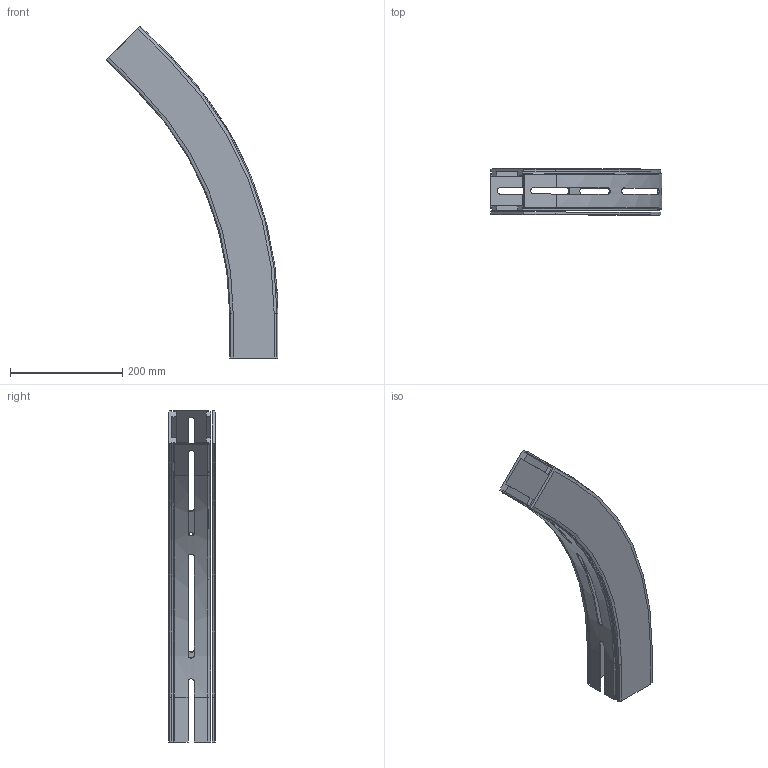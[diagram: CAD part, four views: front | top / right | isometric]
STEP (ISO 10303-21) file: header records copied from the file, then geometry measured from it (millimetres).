
FILE_DESCRIPTION(/* description */ ('GLIDKURVA SERIE 530'),/* implementation_level */ '2;1');
FILE_NAME(/* name */ '530-5375+830-2000-01.stp',/* time_stamp */ '2022-09-20T15:49:51+02:00',/* author */ ('Mathias.Dore'),/* organization */ ('CARRYLINE'),/* preprocessor_version */ 'ST-DEVELOPER v19.2',/* originating_system */ 'Autodesk Inventor 2023',/* authorisation */ '');
FILE_SCHEMA (('AUTOMOTIVE_DESIGN { 1 0 10303 214 3 1 1 }'));
Length unit declared in the file: millimetre
Products named in the file (1): 530-5375+830-2000-01
Bounding box: 305.71 x 82 x 591.24 mm (x, y, z)
Volume: 913832.4 mm3; surface area: 437896.1 mm2
Topology: 2 solids, 2 shells, 171 faces, 482 edges, 316 vertices
Faces by surface type: plane 111, cylinder 30, bspline 22, torus 4, cone 4
Entity records: 6077 total; most frequent: CARTESIAN_POINT 1604, ORIENTED_EDGE 964, DIRECTION 830, EDGE_CURVE 482, LINE 346, VECTOR 346, VERTEX_POINT 316, AXIS2_PLACEMENT_3D 242
